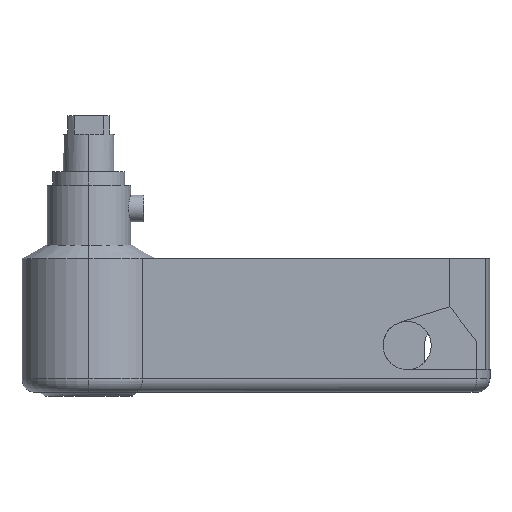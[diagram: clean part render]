
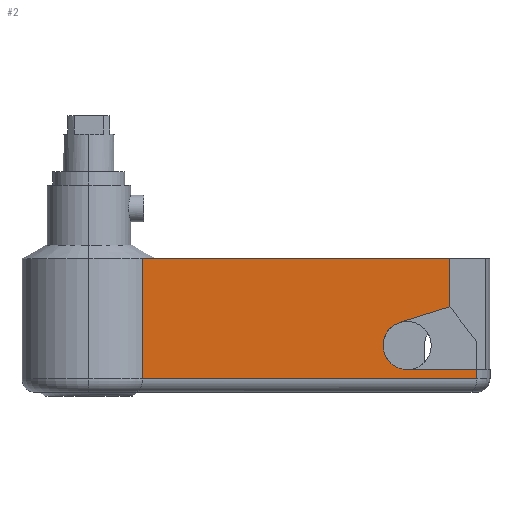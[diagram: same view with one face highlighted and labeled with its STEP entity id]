
A CAD part, left-side view. The second image highlights one B-rep face of the part: STEP entity #2.
In plain terms, the highlighted planar face has unit normal (-1, 0, 0).
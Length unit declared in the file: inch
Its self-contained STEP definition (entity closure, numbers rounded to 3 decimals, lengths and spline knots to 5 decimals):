
#2 = ADVANCED_FACE ( 'NONE', ( #2258 ), #1828, .F. ) ;
#146 = AXIS2_PLACEMENT_3D ( 'NONE', #272, #266, #265 ) ;
#221 = AXIS2_PLACEMENT_3D ( 'NONE', #1827, #1922, #1923 ) ;
#265 = DIRECTION ( 'NONE',  ( 0., 1., 0. ) ) ;
#266 = DIRECTION ( 'NONE',  ( 1., 0., 0. ) ) ;
#270 = DIRECTION ( 'NONE',  ( 0., 1., 0. ) ) ;
#272 = CARTESIAN_POINT ( 'NONE',  ( -0.90995, -1.06352, -0.22254 ) ) ;
#273 = CARTESIAN_POINT ( 'NONE',  ( -0.90995, -1.38352, 0.06746 ) ) ;
#274 = DIRECTION ( 'NONE',  ( 0., -0.954, 0.3 ) ) ;
#276 = CARTESIAN_POINT ( 'NONE',  ( -0.90995, -1.06352, -0.40304 ) ) ;
#352 = EDGE_CURVE ( 'NONE', #1844, #1867, #2431, .T. ) ;
#365 = EDGE_CURVE ( 'NONE', #1844, #1916, #2618, .T. ) ;
#366 = EDGE_CURVE ( 'NONE', #1867, #1887, #2528, .T. ) ;
#367 = EDGE_CURVE ( 'NONE', #1880, #1887, #2336, .T. ) ;
#371 = EDGE_CURVE ( 'NONE', #1877, #1916, #2609, .T. ) ;
#372 = EDGE_CURVE ( 'NONE', #1839, #1877, #2511, .T. ) ;
#373 = EDGE_CURVE ( 'NONE', #1880, #1831, #2481, .T. ) ;
#375 = EDGE_CURVE ( 'NONE', #1831, #1839, #2424, .T. ) ;
#520 = CARTESIAN_POINT ( 'NONE',  ( -0.90995, 0.91648, 0.42746 ) ) ;
#549 = DIRECTION ( 'NONE',  ( 0., 0., -1. ) ) ;
#567 = CARTESIAN_POINT ( 'NONE',  ( -0.90995, -3.62373, 0.42746 ) ) ;
#577 = CARTESIAN_POINT ( 'NONE',  ( -0.90995, -1.58352, 0.42746 ) ) ;
#583 = DIRECTION ( 'NONE',  ( 0., -1., 0. ) ) ;
#591 = DIRECTION ( 'NONE',  ( 0., 0., -1. ) ) ;
#595 = DIRECTION ( 'NONE',  ( 0., -1., 0. ) ) ;
#597 = CARTESIAN_POINT ( 'NONE',  ( -0.90995, -3.62373, -0.47254 ) ) ;
#616 = CARTESIAN_POINT ( 'NONE',  ( -0.90995, -1.38352, 0.42746 ) ) ;
#623 = DIRECTION ( 'NONE',  ( 0., 0., 1. ) ) ;
#1146 = CARTESIAN_POINT ( 'NONE',  ( -0.90995, -1.06352, -0.40304 ) ) ;
#1153 = CARTESIAN_POINT ( 'NONE',  ( -0.90995, -1.00931, -0.05037 ) ) ;
#1158 = CARTESIAN_POINT ( 'NONE',  ( -0.90995, 0.91648, 0.42746 ) ) ;
#1181 = CARTESIAN_POINT ( 'NONE',  ( -0.90995, 0.91648, -0.47254 ) ) ;
#1191 = CARTESIAN_POINT ( 'NONE',  ( -0.90995, -1.38352, 0.06746 ) ) ;
#1194 = CARTESIAN_POINT ( 'NONE',  ( -0.90995, -1.58352, -0.40304 ) ) ;
#1201 = CARTESIAN_POINT ( 'NONE',  ( -0.90995, -1.58352, -0.47254 ) ) ;
#1230 = CARTESIAN_POINT ( 'NONE',  ( -0.90995, -1.38352, 0.42746 ) ) ;
#1281 = EDGE_LOOP ( 'NONE', ( #2731, #2716, #2758, #2766, #2802, #2764, #2768, #2856 ) ) ;
#1827 = CARTESIAN_POINT ( 'NONE',  ( -0.90995, -3.62373, 0.42746 ) ) ;
#1828 = PLANE ( 'NONE',  #221 ) ;
#1831 = VERTEX_POINT ( 'NONE', #1146 ) ;
#1839 = VERTEX_POINT ( 'NONE', #1153 ) ;
#1844 = VERTEX_POINT ( 'NONE', #1158 ) ;
#1867 = VERTEX_POINT ( 'NONE', #1181 ) ;
#1877 = VERTEX_POINT ( 'NONE', #1191 ) ;
#1880 = VERTEX_POINT ( 'NONE', #1194 ) ;
#1887 = VERTEX_POINT ( 'NONE', #1201 ) ;
#1916 = VERTEX_POINT ( 'NONE', #1230 ) ;
#1922 = DIRECTION ( 'NONE',  ( 1., 0., 0. ) ) ;
#1923 = DIRECTION ( 'NONE',  ( 0., 1., 0. ) ) ;
#2258 = FACE_OUTER_BOUND ( 'NONE', #1281, .T. ) ;
#2273 = VECTOR ( 'NONE', #274, 39.37008 ) ;
#2336 = LINE ( 'NONE', #577, #2704 ) ;
#2424 = CIRCLE ( 'NONE', #146, 0.1805 ) ;
#2431 = LINE ( 'NONE', #520, #2674 ) ;
#2481 = LINE ( 'NONE', #276, #2652 ) ;
#2490 = VECTOR ( 'NONE', #623, 39.37008 ) ;
#2511 = LINE ( 'NONE', #273, #2273 ) ;
#2528 = LINE ( 'NONE', #597, #2654 ) ;
#2609 = LINE ( 'NONE', #616, #2490 ) ;
#2618 = LINE ( 'NONE', #567, #2634 ) ;
#2634 = VECTOR ( 'NONE', #595, 39.37008 ) ;
#2652 = VECTOR ( 'NONE', #270, 39.37008 ) ;
#2654 = VECTOR ( 'NONE', #583, 39.37008 ) ;
#2674 = VECTOR ( 'NONE', #549, 39.37008 ) ;
#2704 = VECTOR ( 'NONE', #591, 39.37008 ) ;
#2716 = ORIENTED_EDGE ( 'NONE', *, *, #371, .T. ) ;
#2731 = ORIENTED_EDGE ( 'NONE', *, *, #372, .T. ) ;
#2758 = ORIENTED_EDGE ( 'NONE', *, *, #365, .F. ) ;
#2764 = ORIENTED_EDGE ( 'NONE', *, *, #367, .F. ) ;
#2766 = ORIENTED_EDGE ( 'NONE', *, *, #352, .T. ) ;
#2768 = ORIENTED_EDGE ( 'NONE', *, *, #373, .T. ) ;
#2802 = ORIENTED_EDGE ( 'NONE', *, *, #366, .T. ) ;
#2856 = ORIENTED_EDGE ( 'NONE', *, *, #375, .T. ) ;
